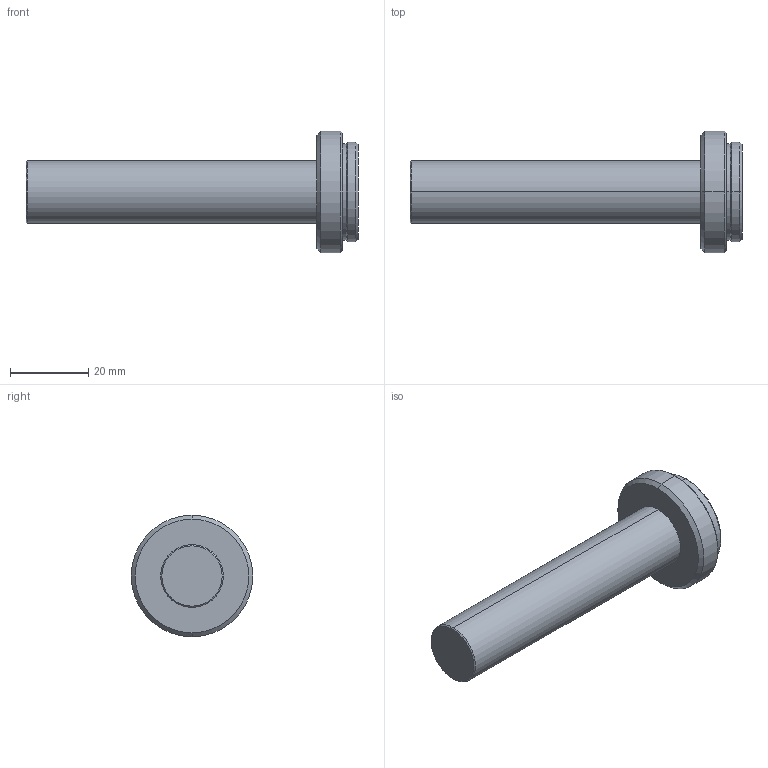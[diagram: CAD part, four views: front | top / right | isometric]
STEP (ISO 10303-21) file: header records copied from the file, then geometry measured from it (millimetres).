
FILE_DESCRIPTION (( 'STEP AP203' ), '1' );
FILE_NAME ('VS-TC6-65.STEP', '2020-02-19T04:11:27', ( '' ), ( '' ), 'SwSTEP 2.0', 'SolidWorks 2017', '' );
FILE_SCHEMA (( 'CONFIG_CONTROL_DESIGN' ));
Length unit declared in the file: millimetre
Products named in the file (1): VS-TC6-65
Bounding box: 84.7 x 31 x 31 mm (x, y, z)
Volume: 21737.8 mm3; surface area: 6108.2 mm2
Topology: 1 solids, 1 shells, 22 faces, 42 edges, 24 vertices
Faces by surface type: cone 10, cylinder 8, plane 4
Entity records: 631 total; most frequent: DIRECTION 112, CARTESIAN_POINT 89, ORIENTED_EDGE 84, AXIS2_PLACEMENT_3D 47, EDGE_CURVE 42, VERTEX_POINT 24, EDGE_LOOP 24, CIRCLE 24
